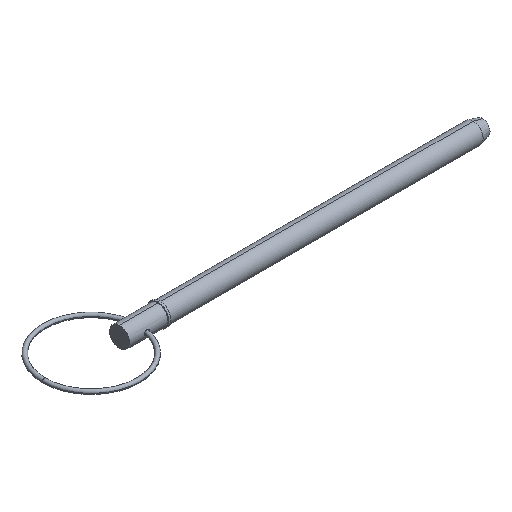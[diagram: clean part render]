
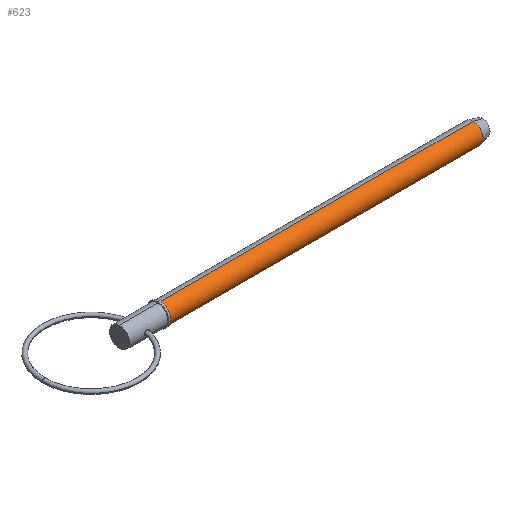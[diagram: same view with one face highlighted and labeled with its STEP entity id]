
A CAD part, isometric view. The second image highlights one B-rep face of the part: STEP entity #623.
In plain terms, the highlighted cylindrical face has radius 4.765 mm (diameter 9.53 mm), a partial arc.
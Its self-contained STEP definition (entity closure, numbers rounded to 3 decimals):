
#22 = CIRCLE ( 'NONE', #853, 4.765 ) ;
#37 = CARTESIAN_POINT ( 'NONE',  ( 0., 0., 0. ) ) ;
#70 = DIRECTION ( 'NONE',  ( 1., 0., 0. ) ) ;
#115 = EDGE_CURVE ( 'NONE', #795, #527, #720, .T. ) ;
#169 = DIRECTION ( 'NONE',  ( 1., 0., 0. ) ) ;
#253 = AXIS2_PLACEMENT_3D ( 'NONE', #37, #602, #278 ) ;
#278 = DIRECTION ( 'NONE',  ( 0., 0., -1. ) ) ;
#308 = DIRECTION ( 'NONE',  ( 1., 0., 0. ) ) ;
#309 = EDGE_CURVE ( 'NONE', #892, #527, #901, .T. ) ;
#324 = CARTESIAN_POINT ( 'NONE',  ( 19.05, 0., -4.765 ) ) ;
#383 = ORIENTED_EDGE ( 'NONE', *, *, #309, .F. ) ;
#385 = DIRECTION ( 'NONE',  ( 0., 0., -1. ) ) ;
#396 = EDGE_CURVE ( 'NONE', #999, #892, #935, .T. ) ;
#441 = FACE_OUTER_BOUND ( 'NONE', #948, .T. ) ;
#477 = DIRECTION ( 'NONE',  ( 0., 0., -1. ) ) ;
#496 = ORIENTED_EDGE ( 'NONE', *, *, #396, .F. ) ;
#527 = VERTEX_POINT ( 'NONE', #650 ) ;
#602 = DIRECTION ( 'NONE',  ( 1., 0., 0. ) ) ;
#623 = ADVANCED_FACE ( 'NONE', ( #441 ), #895, .T. ) ;
#650 = CARTESIAN_POINT ( 'NONE',  ( 167.004, 0., -4.765 ) ) ;
#678 = VECTOR ( 'NONE', #308, 1000. ) ;
#715 = AXIS2_PLACEMENT_3D ( 'NONE', #945, #70, #385 ) ;
#720 = LINE ( 'NONE', #970, #790 ) ;
#723 = CARTESIAN_POINT ( 'NONE',  ( 167.004, 0., 4.765 ) ) ;
#790 = VECTOR ( 'NONE', #169, 1000. ) ;
#792 = ORIENTED_EDGE ( 'NONE', *, *, #950, .T. ) ;
#795 = VERTEX_POINT ( 'NONE', #324 ) ;
#853 = AXIS2_PLACEMENT_3D ( 'NONE', #928, #952, #477 ) ;
#892 = VERTEX_POINT ( 'NONE', #723 ) ;
#895 = CYLINDRICAL_SURFACE ( 'NONE', #253, 4.765 ) ;
#901 = CIRCLE ( 'NONE', #715, 4.765 ) ;
#928 = CARTESIAN_POINT ( 'NONE',  ( 19.05, 0., 0. ) ) ;
#935 = LINE ( 'NONE', #941, #678 ) ;
#939 = CARTESIAN_POINT ( 'NONE',  ( 19.05, 0., 4.765 ) ) ;
#941 = CARTESIAN_POINT ( 'NONE',  ( 0., 0., 4.765 ) ) ;
#945 = CARTESIAN_POINT ( 'NONE',  ( 167.004, 0., 0. ) ) ;
#948 = EDGE_LOOP ( 'NONE', ( #496, #792, #972, #383 ) ) ;
#950 = EDGE_CURVE ( 'NONE', #999, #795, #22, .T. ) ;
#952 = DIRECTION ( 'NONE',  ( 1., 0., 0. ) ) ;
#970 = CARTESIAN_POINT ( 'NONE',  ( 0., 0., -4.765 ) ) ;
#972 = ORIENTED_EDGE ( 'NONE', *, *, #115, .T. ) ;
#999 = VERTEX_POINT ( 'NONE', #939 ) ;
